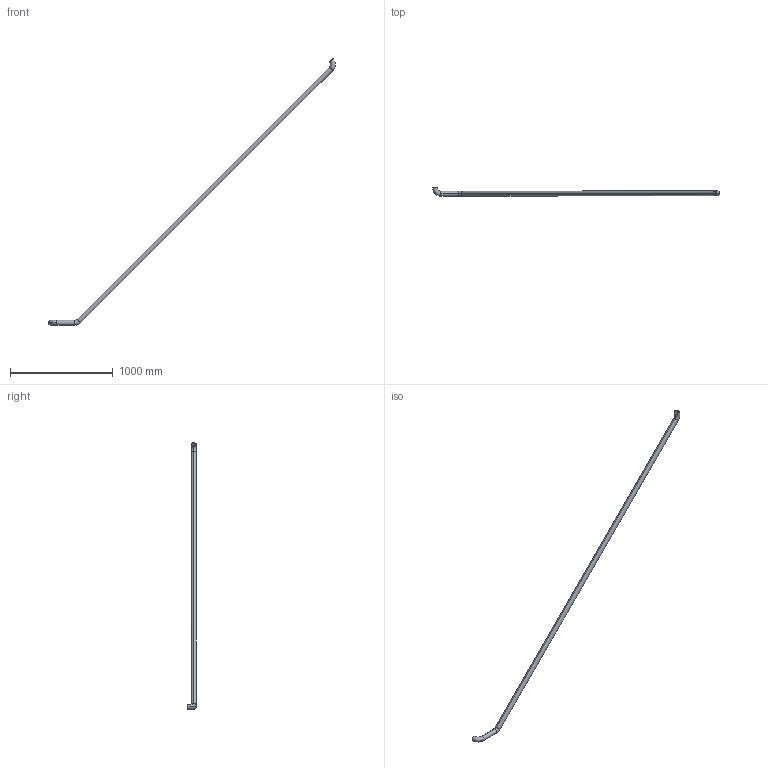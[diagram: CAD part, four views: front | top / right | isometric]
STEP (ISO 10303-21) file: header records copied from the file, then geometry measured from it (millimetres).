
FILE_DESCRIPTION (( 'STEP AP214' ), '1' );
FILE_NAME ('CCJ029-REP.325 - MAIN COURANTE ESCALIER INFERIEUR-RAS SYM.STEP', '2025-04-17T08:06:29', ( '' ), ( '' ), 'SwSTEP 2.0', 'SolidWorks 2021', '' );
FILE_SCHEMA (( 'AUTOMOTIVE_DESIGN' ));
Length unit declared in the file: millimetre
Products named in the file (1): CCJ029-REP.325 - MAIN COURANTE ESCALIER INFERIEUR-RAS SYM
Bounding box: 2794.6 x 81.16 x 2596.78 mm (x, y, z)
Volume: 1393787.6 mm3; surface area: 1115749.5 mm2
Topology: 1 solids, 1 shells, 34 faces, 76 edges, 44 vertices
Faces by surface type: cylinder 20, torus 12, plane 2
Entity records: 994 total; most frequent: DIRECTION 202, CARTESIAN_POINT 155, ORIENTED_EDGE 152, AXIS2_PLACEMENT_3D 91, EDGE_CURVE 76, CIRCLE 56, VERTEX_POINT 44, EDGE_LOOP 36
